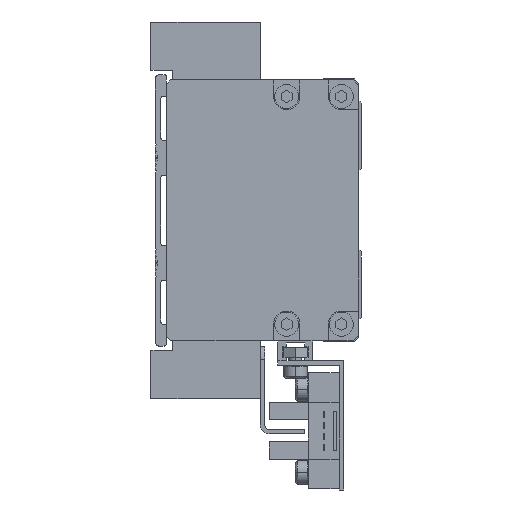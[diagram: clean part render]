
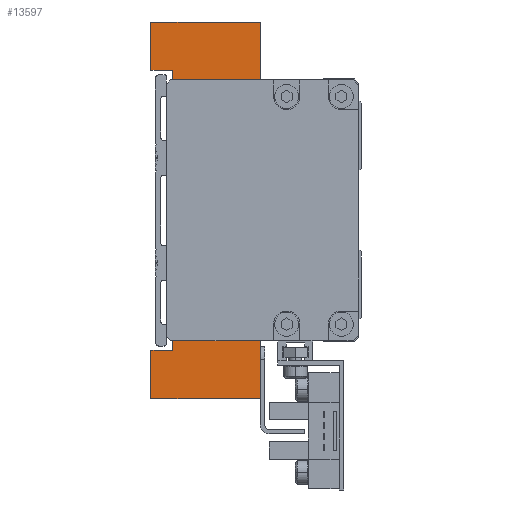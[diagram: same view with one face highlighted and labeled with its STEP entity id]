
A CAD part, left-side view. The second image highlights one B-rep face of the part: STEP entity #13597.
In plain terms, the highlighted planar face has unit normal (-1, 0, 0).
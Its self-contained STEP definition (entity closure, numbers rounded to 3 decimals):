
#518 = EDGE_LOOP ( 'NONE', ( #10177, #20362, #18790, #9288, #21593, #33327, #16558, #4240, #1071, #35922, #20587, #33418, #28548, #32508, #19041, #12925, #34763, #2330 ) ) ;
#572 = EDGE_CURVE ( 'NONE', #15260, #9170, #20051, .T. ) ;
#1071 = ORIENTED_EDGE ( 'NONE', *, *, #41400, .F. ) ;
#1200 = CARTESIAN_POINT ( 'NONE',  ( -77., 20., -32. ) ) ;
#1294 = CARTESIAN_POINT ( 'NONE',  ( -77., 5., 28. ) ) ;
#1535 = VERTEX_POINT ( 'NONE', #7542 ) ;
#1539 = DIRECTION ( 'NONE',  ( 0., 0., -1. ) ) ;
#1991 = VERTEX_POINT ( 'NONE', #25056 ) ;
#2021 = DIRECTION ( 'NONE',  ( 0., 1., 0. ) ) ;
#2330 = ORIENTED_EDGE ( 'NONE', *, *, #30236, .F. ) ;
#2632 = LINE ( 'NONE', #9352, #35999 ) ;
#2852 = VERTEX_POINT ( 'NONE', #13932 ) ;
#3541 = LINE ( 'NONE', #18477, #36893 ) ;
#3755 = VECTOR ( 'NONE', #14061, 1000. ) ;
#4107 = CARTESIAN_POINT ( 'NONE',  ( -77., 0., 43. ) ) ;
#4240 = ORIENTED_EDGE ( 'NONE', *, *, #17612, .F. ) ;
#5052 = DIRECTION ( 'NONE',  ( 0., -1., 0. ) ) ;
#5295 = EDGE_CURVE ( 'NONE', #17909, #19619, #39162, .T. ) ;
#5897 = CARTESIAN_POINT ( 'NONE',  ( -77., 25., 43. ) ) ;
#6043 = EDGE_CURVE ( 'NONE', #11630, #39639, #10866, .T. ) ;
#6291 = VECTOR ( 'NONE', #30404, 1000. ) ;
#6471 = LINE ( 'NONE', #25431, #24692 ) ;
#6477 = CARTESIAN_POINT ( 'NONE',  ( -77., 10., -21. ) ) ;
#6716 = VERTEX_POINT ( 'NONE', #6477 ) ;
#7098 = EDGE_CURVE ( 'NONE', #2852, #28276, #2632, .T. ) ;
#7542 = CARTESIAN_POINT ( 'NONE',  ( -77., 0., -28. ) ) ;
#8651 = CARTESIAN_POINT ( 'NONE',  ( -77., 9., -21. ) ) ;
#9170 = VERTEX_POINT ( 'NONE', #5897 ) ;
#9229 = EDGE_CURVE ( 'NONE', #26268, #11630, #39420, .T. ) ;
#9288 = ORIENTED_EDGE ( 'NONE', *, *, #6043, .F. ) ;
#9299 = CARTESIAN_POINT ( 'NONE',  ( -77., 25., 43. ) ) ;
#9352 = CARTESIAN_POINT ( 'NONE',  ( -77., 25., -43. ) ) ;
#9358 = EDGE_CURVE ( 'NONE', #19619, #13237, #34847, .T. ) ;
#10177 = ORIENTED_EDGE ( 'NONE', *, *, #12713, .T. ) ;
#10243 = LINE ( 'NONE', #9299, #15239 ) ;
#10343 = EDGE_CURVE ( 'NONE', #28276, #1991, #12074, .T. ) ;
#10700 = VERTEX_POINT ( 'NONE', #20575 ) ;
#10706 = CARTESIAN_POINT ( 'NONE',  ( -77., 9., -21. ) ) ;
#10866 = LINE ( 'NONE', #23955, #6291 ) ;
#11185 = PLANE ( 'NONE',  #33094 ) ;
#11630 = VERTEX_POINT ( 'NONE', #26587 ) ;
#12018 = EDGE_CURVE ( 'NONE', #27884, #2852, #31591, .T. ) ;
#12038 = VERTEX_POINT ( 'NONE', #26117 ) ;
#12074 = LINE ( 'NONE', #34140, #28242 ) ;
#12363 = LINE ( 'NONE', #1200, #39089 ) ;
#12397 = CARTESIAN_POINT ( 'NONE',  ( -77., 25., -32. ) ) ;
#12542 = DIRECTION ( 'NONE',  ( 0., -1., 0. ) ) ;
#12713 = EDGE_CURVE ( 'NONE', #12038, #31457, #36078, .T. ) ;
#12783 = CARTESIAN_POINT ( 'NONE',  ( -77., 10., 21. ) ) ;
#12925 = ORIENTED_EDGE ( 'NONE', *, *, #5295, .F. ) ;
#13237 = VERTEX_POINT ( 'NONE', #21950 ) ;
#13460 = CARTESIAN_POINT ( 'NONE',  ( -77., 25., 32. ) ) ;
#13597 = ADVANCED_FACE ( 'NONE', ( #21378 ), #11185, .F. ) ;
#13932 = CARTESIAN_POINT ( 'NONE',  ( -77., 25., -43. ) ) ;
#14061 = DIRECTION ( 'NONE',  ( 0., 1., 0. ) ) ;
#14433 = VECTOR ( 'NONE', #15277, 1000. ) ;
#14903 = CARTESIAN_POINT ( 'NONE',  ( -77., 20., 32. ) ) ;
#15239 = VECTOR ( 'NONE', #12542, 1000. ) ;
#15260 = VERTEX_POINT ( 'NONE', #13460 ) ;
#15277 = DIRECTION ( 'NONE',  ( 0., -1., 0. ) ) ;
#15418 = VECTOR ( 'NONE', #19307, 1000. ) ;
#15427 = LINE ( 'NONE', #12783, #20995 ) ;
#15753 = DIRECTION ( 'NONE',  ( 0., -1., 0. ) ) ;
#15927 = CARTESIAN_POINT ( 'NONE',  ( -77., 25., 32. ) ) ;
#15941 = CARTESIAN_POINT ( 'NONE',  ( -77., 0., -43. ) ) ;
#16155 = DIRECTION ( 'NONE',  ( 0., 0., -1. ) ) ;
#16558 = ORIENTED_EDGE ( 'NONE', *, *, #572, .F. ) ;
#16703 = CARTESIAN_POINT ( 'NONE',  ( -77., 20., 32. ) ) ;
#17084 = CARTESIAN_POINT ( 'NONE',  ( -77., 5., -28. ) ) ;
#17537 = CARTESIAN_POINT ( 'NONE',  ( -77., 5., -21. ) ) ;
#17612 = EDGE_CURVE ( 'NONE', #17905, #15260, #25145, .T. ) ;
#17905 = VERTEX_POINT ( 'NONE', #16703 ) ;
#17909 = VERTEX_POINT ( 'NONE', #35907 ) ;
#18409 = EDGE_CURVE ( 'NONE', #13237, #1535, #40154, .T. ) ;
#18477 = CARTESIAN_POINT ( 'NONE',  ( -77., 0., -28. ) ) ;
#18790 = ORIENTED_EDGE ( 'NONE', *, *, #26365, .F. ) ;
#18884 = DIRECTION ( 'NONE',  ( 0., -1., 0. ) ) ;
#19041 = ORIENTED_EDGE ( 'NONE', *, *, #9358, .F. ) ;
#19149 = CARTESIAN_POINT ( 'NONE',  ( -77., 0., 43. ) ) ;
#19307 = DIRECTION ( 'NONE',  ( 0., 1., 0. ) ) ;
#19619 = VERTEX_POINT ( 'NONE', #17537 ) ;
#20051 = LINE ( 'NONE', #15927, #41708 ) ;
#20342 = DIRECTION ( 'NONE',  ( 0., -1., 0. ) ) ;
#20362 = ORIENTED_EDGE ( 'NONE', *, *, #38475, .T. ) ;
#20575 = CARTESIAN_POINT ( 'NONE',  ( -77., 5., 21. ) ) ;
#20587 = ORIENTED_EDGE ( 'NONE', *, *, #7098, .F. ) ;
#20907 = DIRECTION ( 'NONE',  ( 1., 0., 0. ) ) ;
#20995 = VECTOR ( 'NONE', #16155, 1000. ) ;
#21378 = FACE_OUTER_BOUND ( 'NONE', #518, .T. ) ;
#21593 = ORIENTED_EDGE ( 'NONE', *, *, #9229, .F. ) ;
#21950 = CARTESIAN_POINT ( 'NONE',  ( -77., 5., -28. ) ) ;
#22375 = CARTESIAN_POINT ( 'NONE',  ( -77., 0., -43. ) ) ;
#22708 = EDGE_CURVE ( 'NONE', #1535, #27884, #3541, .T. ) ;
#22855 = CARTESIAN_POINT ( 'NONE',  ( -77., 5., -21. ) ) ;
#23955 = CARTESIAN_POINT ( 'NONE',  ( -77., 0., 28. ) ) ;
#24692 = VECTOR ( 'NONE', #18884, 1000. ) ;
#25056 = CARTESIAN_POINT ( 'NONE',  ( -77., 20., -32. ) ) ;
#25145 = LINE ( 'NONE', #14903, #35218 ) ;
#25431 = CARTESIAN_POINT ( 'NONE',  ( -77., 9., 21. ) ) ;
#25728 = DIRECTION ( 'NONE',  ( 0., 0., 1. ) ) ;
#25810 = VECTOR ( 'NONE', #29610, 1000. ) ;
#26117 = CARTESIAN_POINT ( 'NONE',  ( -77., 10., 21. ) ) ;
#26268 = VERTEX_POINT ( 'NONE', #4107 ) ;
#26365 = EDGE_CURVE ( 'NONE', #39639, #10700, #40146, .T. ) ;
#26587 = CARTESIAN_POINT ( 'NONE',  ( -77., 0., 28. ) ) ;
#26798 = CARTESIAN_POINT ( 'NONE',  ( -77., 9., 21. ) ) ;
#27884 = VERTEX_POINT ( 'NONE', #22375 ) ;
#28242 = VECTOR ( 'NONE', #5052, 1000. ) ;
#28262 = DIRECTION ( 'NONE',  ( 0., 0., -1. ) ) ;
#28276 = VERTEX_POINT ( 'NONE', #12397 ) ;
#28548 = ORIENTED_EDGE ( 'NONE', *, *, #22708, .F. ) ;
#28995 = VECTOR ( 'NONE', #15753, 1000. ) ;
#29610 = DIRECTION ( 'NONE',  ( 0., 0., -1. ) ) ;
#30079 = LINE ( 'NONE', #10706, #3755 ) ;
#30236 = EDGE_CURVE ( 'NONE', #12038, #6716, #15427, .T. ) ;
#30404 = DIRECTION ( 'NONE',  ( 0., 1., 0. ) ) ;
#30585 = VECTOR ( 'NONE', #20342, 1000. ) ;
#31457 = VERTEX_POINT ( 'NONE', #26798 ) ;
#31591 = LINE ( 'NONE', #15941, #15418 ) ;
#32112 = VECTOR ( 'NONE', #40370, 1000. ) ;
#32508 = ORIENTED_EDGE ( 'NONE', *, *, #18409, .F. ) ;
#32967 = EDGE_CURVE ( 'NONE', #9170, #26268, #10243, .T. ) ;
#33094 = AXIS2_PLACEMENT_3D ( 'NONE', #33735, #20907, #1539 ) ;
#33327 = ORIENTED_EDGE ( 'NONE', *, *, #32967, .F. ) ;
#33418 = ORIENTED_EDGE ( 'NONE', *, *, #12018, .F. ) ;
#33735 = CARTESIAN_POINT ( 'NONE',  ( -77., 10., 0. ) ) ;
#34015 = EDGE_CURVE ( 'NONE', #17909, #6716, #30079, .T. ) ;
#34140 = CARTESIAN_POINT ( 'NONE',  ( -77., 25., -32. ) ) ;
#34299 = CARTESIAN_POINT ( 'NONE',  ( -77., 5., 28. ) ) ;
#34763 = ORIENTED_EDGE ( 'NONE', *, *, #34015, .T. ) ;
#34847 = LINE ( 'NONE', #22855, #25810 ) ;
#35218 = VECTOR ( 'NONE', #2021, 1000. ) ;
#35352 = CARTESIAN_POINT ( 'NONE',  ( -77., 10., 21. ) ) ;
#35907 = CARTESIAN_POINT ( 'NONE',  ( -77., 9., -21. ) ) ;
#35922 = ORIENTED_EDGE ( 'NONE', *, *, #10343, .F. ) ;
#35999 = VECTOR ( 'NONE', #25728, 1000. ) ;
#36078 = LINE ( 'NONE', #35352, #28995 ) ;
#36893 = VECTOR ( 'NONE', #28262, 1000. ) ;
#38203 = DIRECTION ( 'NONE',  ( 0., 0., -1. ) ) ;
#38475 = EDGE_CURVE ( 'NONE', #31457, #10700, #6471, .T. ) ;
#38482 = DIRECTION ( 'NONE',  ( 0., 0., 1. ) ) ;
#39089 = VECTOR ( 'NONE', #40136, 1000. ) ;
#39162 = LINE ( 'NONE', #8651, #14433 ) ;
#39420 = LINE ( 'NONE', #19149, #41412 ) ;
#39639 = VERTEX_POINT ( 'NONE', #34299 ) ;
#40136 = DIRECTION ( 'NONE',  ( 0., 0., 1. ) ) ;
#40146 = LINE ( 'NONE', #1294, #32112 ) ;
#40154 = LINE ( 'NONE', #17084, #30585 ) ;
#40370 = DIRECTION ( 'NONE',  ( 0., 0., -1. ) ) ;
#41400 = EDGE_CURVE ( 'NONE', #1991, #17905, #12363, .T. ) ;
#41412 = VECTOR ( 'NONE', #38203, 1000. ) ;
#41708 = VECTOR ( 'NONE', #38482, 1000. ) ;
